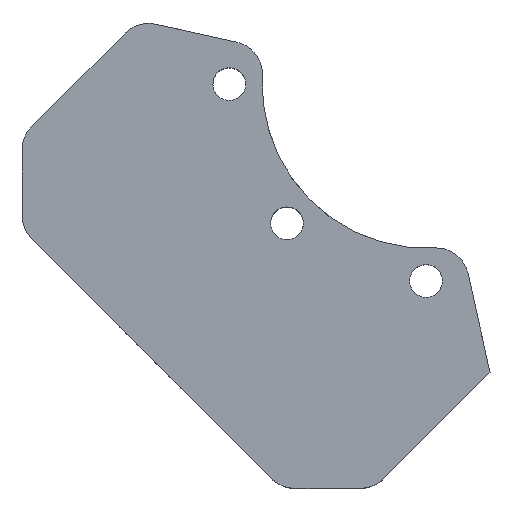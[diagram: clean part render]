
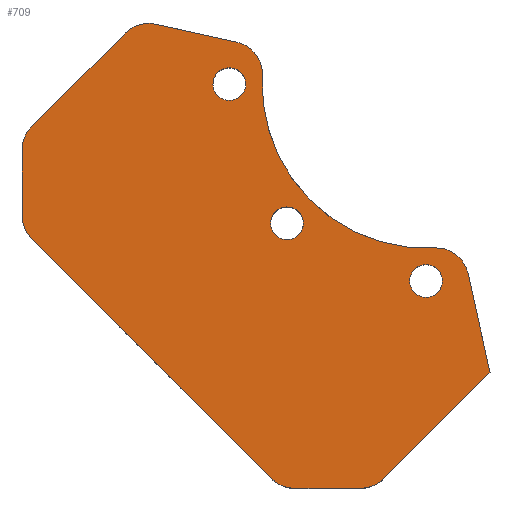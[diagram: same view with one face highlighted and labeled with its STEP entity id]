
A CAD part, top view. The second image highlights one B-rep face of the part: STEP entity #709.
In plain terms, the highlighted planar face has unit normal (0, 0, 1).
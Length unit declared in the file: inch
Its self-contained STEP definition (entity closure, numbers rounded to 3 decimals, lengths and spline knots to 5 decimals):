
#46=FACE_BOUND('',#102,.T.);
#47=FACE_BOUND('',#103,.T.);
#48=FACE_BOUND('',#104,.T.);
#64=FACE_OUTER_BOUND('',#101,.T.);
#101=EDGE_LOOP('',(#524,#525,#526,#527,#528,#529,#530,#531,#532,#533,#534,
#535,#536,#537,#538));
#102=EDGE_LOOP('',(#539));
#103=EDGE_LOOP('',(#540));
#104=EDGE_LOOP('',(#541));
#149=LINE('',#1179,#203);
#150=LINE('',#1183,#204);
#151=LINE('',#1187,#205);
#152=LINE('',#1191,#206);
#153=LINE('',#1195,#207);
#154=LINE('',#1199,#208);
#155=LINE('',#1201,#209);
#203=VECTOR('',#916,0.31691);
#204=VECTOR('',#919,0.50465);
#205=VECTOR('',#922,0.25);
#206=VECTOR('',#925,1.29408);
#207=VECTOR('',#928,0.25);
#208=VECTOR('',#931,0.57322);
#209=VECTOR('',#932,0.38549);
#263=CIRCLE('',#775,0.0625);
#264=CIRCLE('',#777,0.0625);
#265=CIRCLE('',#779,0.0625);
#267=CIRCLE('',#782,0.625);
#268=CIRCLE('',#783,0.125);
#269=CIRCLE('',#784,0.125);
#270=CIRCLE('',#785,0.125);
#271=CIRCLE('',#786,0.125);
#272=CIRCLE('',#787,0.125);
#273=CIRCLE('',#788,0.125);
#274=CIRCLE('',#789,0.125);
#318=VERTEX_POINT('',#1146);
#319=VERTEX_POINT('',#1150);
#320=VERTEX_POINT('',#1154);
#323=VERTEX_POINT('',#1173);
#324=VERTEX_POINT('',#1174);
#325=VERTEX_POINT('',#1176);
#326=VERTEX_POINT('',#1178);
#327=VERTEX_POINT('',#1180);
#328=VERTEX_POINT('',#1182);
#329=VERTEX_POINT('',#1184);
#330=VERTEX_POINT('',#1186);
#331=VERTEX_POINT('',#1188);
#332=VERTEX_POINT('',#1190);
#333=VERTEX_POINT('',#1192);
#334=VERTEX_POINT('',#1194);
#335=VERTEX_POINT('',#1196);
#336=VERTEX_POINT('',#1198);
#337=VERTEX_POINT('',#1200);
#396=EDGE_CURVE('',#318,#318,#263,.F.);
#398=EDGE_CURVE('',#319,#319,#264,.F.);
#400=EDGE_CURVE('',#320,#320,#265,.F.);
#404=EDGE_CURVE('',#323,#324,#267,.T.);
#405=EDGE_CURVE('',#323,#325,#268,.T.);
#406=EDGE_CURVE('',#326,#325,#149,.T.);
#407=EDGE_CURVE('',#326,#327,#269,.T.);
#408=EDGE_CURVE('',#327,#328,#150,.T.);
#409=EDGE_CURVE('',#328,#329,#270,.T.);
#410=EDGE_CURVE('',#330,#329,#151,.T.);
#411=EDGE_CURVE('',#330,#331,#271,.T.);
#412=EDGE_CURVE('',#332,#331,#152,.T.);
#413=EDGE_CURVE('',#332,#333,#272,.T.);
#414=EDGE_CURVE('',#334,#333,#153,.T.);
#415=EDGE_CURVE('',#334,#335,#273,.T.);
#416=EDGE_CURVE('',#335,#336,#154,.T.);
#417=EDGE_CURVE('',#337,#336,#155,.T.);
#418=EDGE_CURVE('',#337,#324,#274,.T.);
#524=ORIENTED_EDGE('',*,*,#404,.F.);
#525=ORIENTED_EDGE('',*,*,#405,.T.);
#526=ORIENTED_EDGE('',*,*,#406,.F.);
#527=ORIENTED_EDGE('',*,*,#407,.T.);
#528=ORIENTED_EDGE('',*,*,#408,.T.);
#529=ORIENTED_EDGE('',*,*,#409,.T.);
#530=ORIENTED_EDGE('',*,*,#410,.F.);
#531=ORIENTED_EDGE('',*,*,#411,.T.);
#532=ORIENTED_EDGE('',*,*,#412,.F.);
#533=ORIENTED_EDGE('',*,*,#413,.T.);
#534=ORIENTED_EDGE('',*,*,#414,.F.);
#535=ORIENTED_EDGE('',*,*,#415,.T.);
#536=ORIENTED_EDGE('',*,*,#416,.T.);
#537=ORIENTED_EDGE('',*,*,#417,.F.);
#538=ORIENTED_EDGE('',*,*,#418,.T.);
#539=ORIENTED_EDGE('',*,*,#396,.T.);
#540=ORIENTED_EDGE('',*,*,#400,.T.);
#541=ORIENTED_EDGE('',*,*,#398,.T.);
#689=PLANE('',#781);
#709=ADVANCED_FACE('',(#64,#46,#47,#48),#689,.T.);
#775=AXIS2_PLACEMENT_3D('',#1148,#896,#897);
#777=AXIS2_PLACEMENT_3D('',#1152,#901,#902);
#779=AXIS2_PLACEMENT_3D('',#1156,#906,#907);
#781=AXIS2_PLACEMENT_3D('',#1172,#910,#911);
#782=AXIS2_PLACEMENT_3D('',#1175,#912,#913);
#783=AXIS2_PLACEMENT_3D('',#1177,#914,#915);
#784=AXIS2_PLACEMENT_3D('',#1181,#917,#918);
#785=AXIS2_PLACEMENT_3D('',#1185,#920,#921);
#786=AXIS2_PLACEMENT_3D('',#1189,#923,#924);
#787=AXIS2_PLACEMENT_3D('',#1193,#926,#927);
#788=AXIS2_PLACEMENT_3D('',#1197,#929,#930);
#789=AXIS2_PLACEMENT_3D('',#1202,#933,#934);
#896=DIRECTION('center_axis',(0.,0.,1.));
#897=DIRECTION('ref_axis',(1.,0.,0.));
#901=DIRECTION('center_axis',(0.,0.,1.));
#902=DIRECTION('ref_axis',(1.,0.,0.));
#906=DIRECTION('center_axis',(0.,0.,1.));
#907=DIRECTION('ref_axis',(1.,0.,0.));
#910=DIRECTION('center_axis',(0.,0.,1.));
#911=DIRECTION('ref_axis',(1.,0.,0.));
#912=DIRECTION('center_axis',(0.,0.,1.));
#913=DIRECTION('ref_axis',(1.,0.,0.));
#914=DIRECTION('center_axis',(0.,0.,1.));
#915=DIRECTION('ref_axis',(1.,0.,0.));
#916=DIRECTION('',(0.976,-0.216,0.));
#917=DIRECTION('center_axis',(0.,0.,1.));
#918=DIRECTION('ref_axis',(1.,0.,0.));
#919=DIRECTION('',(-0.707,-0.707,0.));
#920=DIRECTION('center_axis',(0.,0.,1.));
#921=DIRECTION('ref_axis',(1.,0.,0.));
#922=DIRECTION('',(0.,1.,0.));
#923=DIRECTION('center_axis',(0.,0.,1.));
#924=DIRECTION('ref_axis',(1.,0.,0.));
#925=DIRECTION('',(-0.707,0.707,0.));
#926=DIRECTION('center_axis',(0.,0.,1.));
#927=DIRECTION('ref_axis',(1.,0.,0.));
#928=DIRECTION('',(-1.,0.,0.));
#929=DIRECTION('center_axis',(0.,0.,1.));
#930=DIRECTION('ref_axis',(1.,0.,0.));
#931=DIRECTION('',(0.707,0.707,0.));
#932=DIRECTION('',(0.216,-0.976,0.));
#933=DIRECTION('center_axis',(0.,0.,1.));
#934=DIRECTION('ref_axis',(1.,0.,0.));
#1146=CARTESIAN_POINT('',(-0.0625,-0.75,0.5187));
#1148=CARTESIAN_POINT('Origin',(0.,-0.75,0.5187));
#1150=CARTESIAN_POINT('',(-0.8125,0.,0.5187));
#1152=CARTESIAN_POINT('Origin',(-0.75,0.,0.5187));
#1154=CARTESIAN_POINT('',(-0.59283,-0.53033,0.5187));
#1156=CARTESIAN_POINT('Origin',(-0.53033,-0.53033,0.5187));
#1172=CARTESIAN_POINT('Origin',(0.,0.,0.5187));
#1173=CARTESIAN_POINT('',(-0.6242,0.03169,0.5187));
#1174=CARTESIAN_POINT('',(0.03169,-0.6242,0.5187));
#1175=CARTESIAN_POINT('Origin',(0.,0.,0.5187));
#1176=CARTESIAN_POINT('',(-0.72198,0.16006,0.5187));
#1177=CARTESIAN_POINT('Origin',(-0.74904,0.03802,0.5187));
#1178=CARTESIAN_POINT('',(-1.03138,0.22865,0.5187));
#1179=CARTESIAN_POINT('',(-1.03138,0.22865,0.5187));
#1180=CARTESIAN_POINT('',(-1.14682,0.195,0.5187));
#1181=CARTESIAN_POINT('Origin',(-1.05844,0.10661,0.5187));
#1182=CARTESIAN_POINT('',(-1.50366,-0.16184,0.5187));
#1183=CARTESIAN_POINT('',(-1.14682,0.195,0.5187));
#1184=CARTESIAN_POINT('',(-1.54027,-0.25022,0.5187));
#1185=CARTESIAN_POINT('Origin',(-1.41527,-0.25022,0.5187));
#1186=CARTESIAN_POINT('',(-1.54027,-0.50022,0.5187));
#1187=CARTESIAN_POINT('',(-1.54027,-0.50022,0.5187));
#1188=CARTESIAN_POINT('',(-1.50366,-0.58861,0.5187));
#1189=CARTESIAN_POINT('Origin',(-1.41527,-0.50022,0.5187));
#1190=CARTESIAN_POINT('',(-0.58861,-1.50366,0.5187));
#1191=CARTESIAN_POINT('',(-0.58861,-1.50366,0.5187));
#1192=CARTESIAN_POINT('',(-0.50022,-1.54027,0.5187));
#1193=CARTESIAN_POINT('Origin',(-0.50022,-1.41527,0.5187));
#1194=CARTESIAN_POINT('',(-0.25022,-1.54027,0.5187));
#1195=CARTESIAN_POINT('',(-0.25022,-1.54027,0.5187));
#1196=CARTESIAN_POINT('',(-0.16184,-1.50366,0.5187));
#1197=CARTESIAN_POINT('Origin',(-0.25022,-1.41527,0.5187));
#1198=CARTESIAN_POINT('',(0.24349,-1.09833,0.5187));
#1199=CARTESIAN_POINT('',(-0.16184,-1.50366,0.5187));
#1200=CARTESIAN_POINT('',(0.16006,-0.72198,0.5187));
#1201=CARTESIAN_POINT('',(0.16006,-0.72198,0.5187));
#1202=CARTESIAN_POINT('Origin',(0.03802,-0.74904,0.5187));
